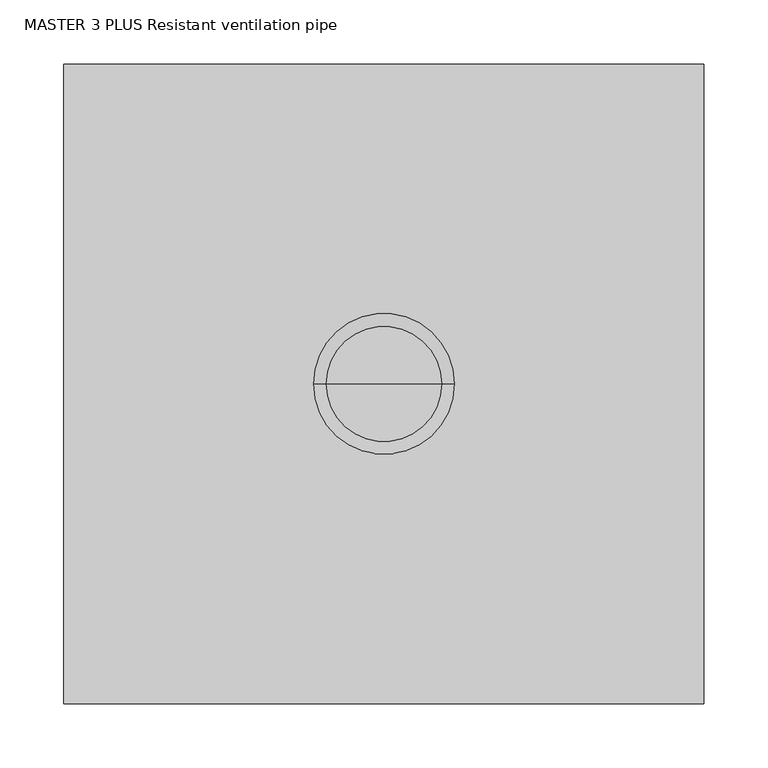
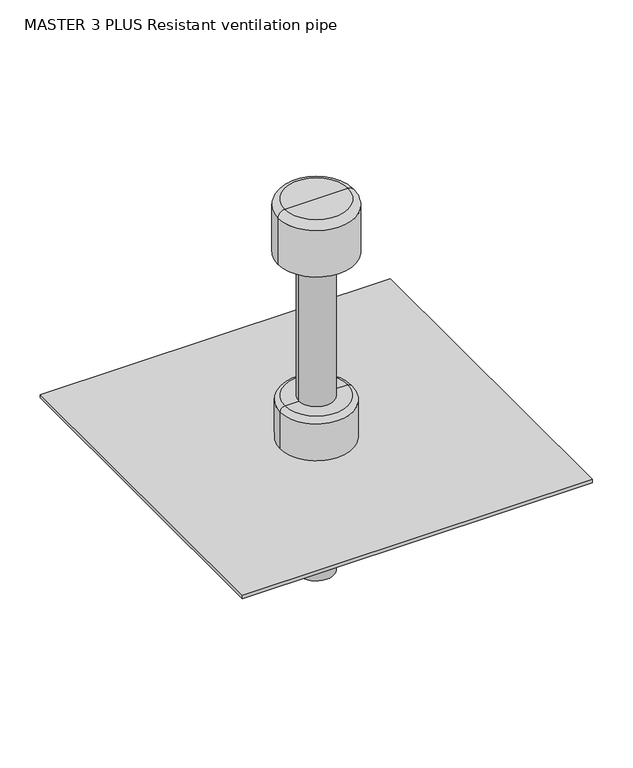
"""IFC4 building model written with IfcOpenShell, lengths in millimetres: valve geometry, MASTER 3 PLUS Resistant ventilation pipe : DN50, Lesp = 200, L3 = 360 mm."""

from ifc_helpers import new_model, si_unit, point, frame, origin, origin_with_axes, origin_2d, place, context, project, spatial, polyline, circle_curve, ellipse_curve, trimmed, segment, composite_curve, outline, extrude, source, transform, mapped, element, save
from ifc_brep_helpers import plane_surface, cylinder_surface, revolved_surface, advanced_brep


def master_3_plus_resistant_ventilation_pipe_69cdf8e2(model_context):
    return source(origin(), model_context, "Body", "SolidModel", [
        advanced_brep(
        [(45.0, 0.0, 560.0), (-45.0, 0.0, 560.0), (0.0, 0.0, 560.0), (55.0, 0.0, 480.0), (-55.0, 0.0, 480.0), (-55.0, 0.0, 550.0), (55.0, 0.0, 550.0), (0.0, 0.0, 480.0)],
        [
            (0, 1, circle_curve(frame((0.0, 0.0, 560.0), z_axis=(0.0, 0.0, 1.0), x_axis=(-1.0, 0.0, 0.0)), 45.0)),
            (1, 2),
            (2, 0),
            (1, 0, circle_curve(frame((0.0, 0.0, 560.0), z_axis=(0.0, 0.0, 1.0), x_axis=(-1.0, 0.0, 0.0)), 45.0)),
            (3, 4, circle_curve(frame((0.0, 0.0, 480.0), z_axis=(0.0, 0.0, 1.0), x_axis=(-1.0, 0.0, 0.0)), 55.0)),
            (4, 5),
            (5, 6, circle_curve(frame((0.0, 0.0, 550.0), z_axis=(0.0, 0.0, -1.0), x_axis=(-1.0, 0.0, 0.0)), 55.0)),
            (6, 3),
            (4, 3, circle_curve(frame((0.0, 0.0, 480.0), z_axis=(0.0, 0.0, 1.0), x_axis=(-1.0, 0.0, 0.0)), 55.0)),
            (6, 5, circle_curve(frame((0.0, 0.0, 550.0), z_axis=(0.0, 0.0, -1.0), x_axis=(-1.0, 0.0, 0.0)), 55.0)),
            (7, 4),
            (3, 7),
            (5, 1, circle_curve(frame((-45.0, 0.0, 550.0), z_axis=(0.0, 1.0, 0.0), x_axis=(1.0, 0.0, 0.0)), 10.0)),
            (0, 6, circle_curve(frame((45.0, 0.0, 550.0), z_axis=(0.0, 1.0, 0.0), x_axis=(-1.0, 0.0, 0.0)), 10.0)),
        ],
        [
            plane_surface(frame((0.0, 0.0, 560.0), z_axis=(0.0, 0.0, 1.0), x_axis=(-1.0, 0.0, 0.0))),
            cylinder_surface(frame((0.0, 0.0, 560.0), z_axis=(0.0, 0.0, -1.0), x_axis=(-1.0, 0.0, 0.0)), 55.0),
            plane_surface(frame((0.0, 0.0, 480.0), z_axis=(0.0, 0.0, -1.0), x_axis=(-1.0, 0.0, 0.0))),
            revolved_surface(trimmed(ellipse_curve(frame((-45.0, 0.0, 550.0), z_axis=(0.0, -1.0, 0.0), x_axis=(1.0, 0.0, 0.0)), 10.0, 10.0), [point((-45.0, 0.0, 560.0))], [point((-55.0, 0.0, 550.0))], True, "CARTESIAN"), (0.0, 0.0, 560.0), (0.0, 0.0, -1.0)),
        ],
        [
            (0, [[1, 2, 3]]),
            (0, [[4, -3, -2]]),
            (1, [[5, 6, 7, 8]]),
            (1, [[9, -8, 10, -6]]),
            (2, [[11, -5, 12]]),
            (2, [[-12, -9, -11]]),
            (3, [[-7, 13, -1, 14]]),
            (3, [[-10, -14, -4, -13]]),
        ],
    ),
        extrude(outline(polyline([(250.0, 250.0), (250.0, -250.0), (-250.0, -250.0), (-250.0, 250.0), (250.0, 250.0)]), holes=[composite_curve([segment(trimmed(circle_curve(origin_2d(), 25.0), [point((-25.0, 0.0))], [point((25.0, 0.0))], True, "CARTESIAN"), True, "CONTINUOUS"), segment(trimmed(circle_curve(origin_2d(), 25.0), [point((25.0, 0.0))], [point((-25.0, 0.0))], True, "CARTESIAN"), True, "CONTINUOUS")], self_intersect=False)]), frame((0.0, 0.0, 194.9838403), z_axis=(0.0, 0.0, 1.0), x_axis=(1.0, 0.0, 0.0)), (0.0, 0.0, 1.0), 5.0161597),
        advanced_brep(
        [(52.0, 0.0, 200.0), (-52.0, 0.0, 200.0), (-52.0, 0.0, 255.75), (52.0, 0.0, 255.75), (25.0, 0.0, 200.0), (-25.0, 0.0, 200.0), (25.0, 0.0, 263.0), (-25.0, 0.0, 263.0), (44.75, 0.0, 263.0), (-44.75, 0.0, 263.0)],
        [
            (0, 1, circle_curve(frame((0.0, 0.0, 200.0), z_axis=(0.0, 0.0, 1.0), x_axis=(-1.0, 0.0, 0.0)), 52.0)),
            (1, 2),
            (2, 3, circle_curve(frame((0.0, 0.0, 255.75), z_axis=(0.0, 0.0, -1.0), x_axis=(-1.0, 0.0, 0.0)), 52.0)),
            (3, 0),
            (1, 0, circle_curve(frame((0.0, 0.0, 200.0), z_axis=(0.0, 0.0, 1.0), x_axis=(-1.0, 0.0, 0.0)), 52.0)),
            (3, 2, circle_curve(frame((0.0, 0.0, 255.75), z_axis=(0.0, 0.0, -1.0), x_axis=(-1.0, 0.0, 0.0)), 52.0)),
            (4, 5, circle_curve(frame((0.0, 0.0, 200.0), z_axis=(0.0, 0.0, 1.0), x_axis=(-1.0, 0.0, 0.0)), 25.0)),
            (5, 1),
            (0, 4),
            (5, 4, circle_curve(frame((0.0, 0.0, 200.0), z_axis=(0.0, 0.0, 1.0), x_axis=(-1.0, 0.0, 0.0)), 25.0)),
            (6, 7, circle_curve(frame((0.0, 0.0, 263.0), z_axis=(0.0, 0.0, 1.0), x_axis=(-1.0, 0.0, 0.0)), 25.0)),
            (7, 5),
            (4, 6),
            (7, 6, circle_curve(frame((0.0, 0.0, 263.0), z_axis=(0.0, 0.0, 1.0), x_axis=(-1.0, 0.0, 0.0)), 25.0)),
            (8, 9, circle_curve(frame((0.0, 0.0, 263.0), z_axis=(0.0, 0.0, 1.0), x_axis=(-1.0, 0.0, 0.0)), 44.75)),
            (9, 7),
            (6, 8),
            (9, 8, circle_curve(frame((0.0, 0.0, 263.0), z_axis=(0.0, 0.0, 1.0), x_axis=(-1.0, 0.0, 0.0)), 44.75)),
            (2, 9, circle_curve(frame((-44.75, 0.0, 255.75), z_axis=(0.0, 1.0, 0.0), x_axis=(1.0, 0.0, 0.0)), 7.25)),
            (8, 3, circle_curve(frame((44.75, 0.0, 255.75), z_axis=(0.0, 1.0, 0.0), x_axis=(-1.0, 0.0, 0.0)), 7.25)),
        ],
        [
            cylinder_surface(frame((0.0, 0.0, 263.0), z_axis=(0.0, 0.0, -1.0), x_axis=(-1.0, 0.0, 0.0)), 52.0),
            plane_surface(frame((0.0, 0.0, 200.0), z_axis=(0.0, 0.0, -1.0), x_axis=(-1.0, 0.0, 0.0))),
            revolved_surface(polyline([(-25.0, 0.0, 200.0), (-25.0, 0.0, 263.0)]), (0.0, 0.0, 263.0), (0.0, 0.0, -1.0)),
            plane_surface(frame((0.0, 0.0, 263.0), z_axis=(0.0, 0.0, 1.0), x_axis=(-1.0, 0.0, 0.0))),
            revolved_surface(trimmed(ellipse_curve(frame((-44.75, 0.0, 255.75), z_axis=(0.0, -1.0, 0.0), x_axis=(1.0, 0.0, 0.0)), 7.25, 7.25), [point((-44.75, 0.0, 263.0))], [point((-52.0, 0.0, 255.75))], True, "CARTESIAN"), (0.0, 0.0, 263.0), (0.0, 0.0, -1.0)),
        ],
        [
            (0, [[1, 2, 3, 4]]),
            (0, [[5, -4, 6, -2]]),
            (1, [[7, 8, -1, 9]]),
            (1, [[10, -9, -5, -8]]),
            (2, [[11, 12, -7, 13]]),
            (2, [[14, -13, -10, -12]]),
            (3, [[15, 16, -11, 17]]),
            (3, [[18, -17, -14, -16]]),
            (4, [[-3, 19, -15, 20]]),
            (4, [[-6, -20, -18, -19]]),
        ],
    ),
        extrude(outline(composite_curve([segment(trimmed(circle_curve(origin_2d(), 25.0), [point((25.0, 0.0))], [point((-25.0, 0.0))], False, "CARTESIAN"), True, "CONTINUOUS"), segment(trimmed(circle_curve(origin_2d(), 25.0), [point((-25.0, 0.0))], [point((25.0, 0.0))], False, "CARTESIAN"), True, "CONTINUOUS")], self_intersect=False)), frame((0.0, 0.0, 200.0), z_axis=(0.0, 0.0, 1.0), x_axis=(1.0, 0.0, 0.0)), (0.0, 0.0, 1.0), 332.0),
        extrude(outline(composite_curve([segment(trimmed(circle_curve(origin_2d(), 25.0), [point((-25.0, 0.0))], [point((25.0, 0.0))], False, "CARTESIAN"), True, "CONTINUOUS"), segment(trimmed(circle_curve(origin_2d(), 25.0), [point((25.0, 0.0))], [point((-25.0, 0.0))], False, "CARTESIAN"), True, "CONTINUOUS")], self_intersect=False)), origin_with_axes(), (0.0, 0.0, 1.0), 194.9838403),
    ])


if __name__ == "__main__":
    model = new_model("IFC4")
    model_context = context("Model", 3, world=origin())
    ifc_project = project(units=[si_unit("LENGTHUNIT", "METRE", prefix="MILLI")], contexts=[model_context])
    site = spatial("IfcSite", under=ifc_project)
    building = spatial("IfcBuilding", under=site)
    placement = place(None, origin())
    master_3_plus_resistant_ventilation_pipe_shape = master_3_plus_resistant_ventilation_pipe_69cdf8e2(model_context)
    element("IfcValve", 1, ObjectType="MASTER 3 PLUS Resistant ventilation pipe : DN50, Lesp = 200, L3 = 360 mm", at=placement, inside=building, context=model_context, shape_type="MappedRepresentation", body=[
        mapped(master_3_plus_resistant_ventilation_pipe_shape, transform((0.0, 0.0, 0.0), x_axis=(1.0, 0.0, 0.0), y_axis=(0.0, 1.0, 0.0), z_axis=(0.0, 0.0, 1.0))),
    ])
    save(model, "model.ifc")
